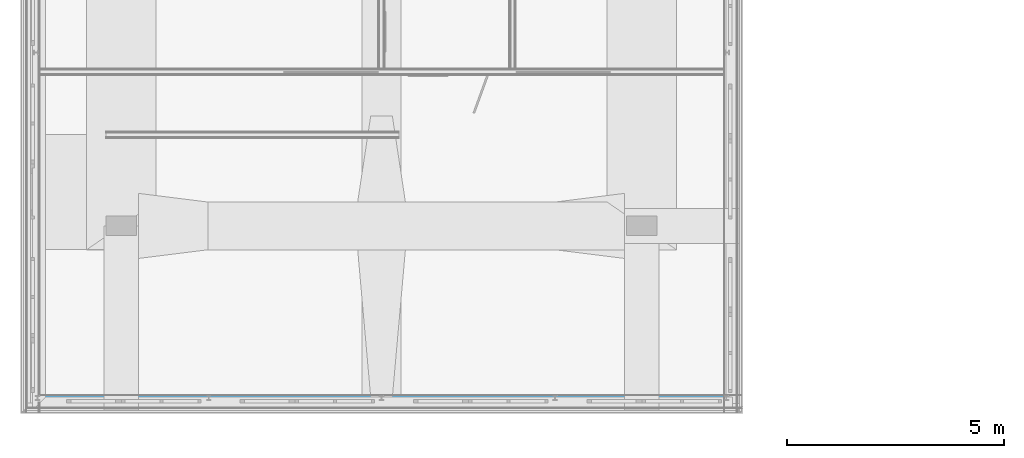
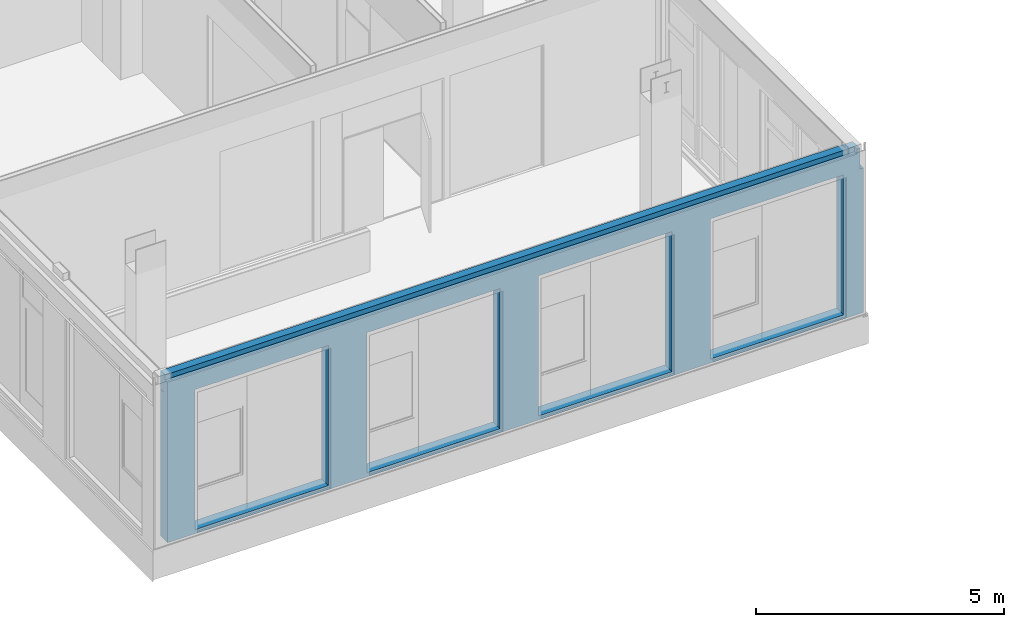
# One storey, part 66 of 94: 1 building element part, 8 openings, 1 element without a shape of its own.
"""IFC2X3 building model written with IfcOpenShell, lengths in millimetres."""

from ifc_helpers import new_model, entity, si_unit, converted_unit, derived_unit, money_unit, direction, frame, origin_with_axes, place, context, subcontext, project, spatial, faceted_brep, material, type_object, element, aggregate, save


model = new_model("IFC2X3")

# Units and contexts
model_context = context("Model", 3, precision=0.01, world=origin_with_axes(), true_north=direction((0.0, 1.0)))
body_context = subcontext(model_context, "Body", "Model", "MODEL_VIEW")
ifc_project = project(units=[si_unit("LENGTHUNIT", "METRE", prefix="MILLI"), si_unit("AREAUNIT", "SQUARE_METRE"), si_unit("VOLUMEUNIT", "CUBIC_METRE"), converted_unit("PLANEANGLEUNIT", "DEGREE", entity("IfcPlaneAngleMeasure", 0.0174532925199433), si_unit("PLANEANGLEUNIT", "RADIAN"), dimensions=[0, 0, 0, 0, 0, 0, 0]), money_unit("EUR"), converted_unit("TIMEUNIT", "Year", entity("IfcTimeMeasure", 31557600.0), si_unit("TIMEUNIT", "SECOND"), dimensions=[0, 0, 1, 0, 0, 0, 0]), si_unit("MASSUNIT", "GRAM", prefix="KILO"), si_unit("THERMODYNAMICTEMPERATUREUNIT", "DEGREE_CELSIUS"), si_unit("LUMINOUSINTENSITYUNIT", "LUMEN"), si_unit("ENERGYUNIT", "JOULE", prefix="MEGA"), derived_unit("THERMALCONDUCTANCEUNIT", [(si_unit("POWERUNIT", "WATT"), 1), (si_unit("LENGTHUNIT", "METRE"), -1), (si_unit("THERMODYNAMICTEMPERATUREUNIT", "KELVIN"), -1)]), derived_unit("SPECIFICHEATCAPACITYUNIT", [(si_unit("ENERGYUNIT", "JOULE"), 1), (si_unit("MASSUNIT", "GRAM", prefix="KILO"), -1), (si_unit("THERMODYNAMICTEMPERATUREUNIT", "KELVIN"), -1)]), derived_unit("MASSDENSITYUNIT", [(si_unit("MASSUNIT", "GRAM", prefix="KILO"), 1), (si_unit("VOLUMEUNIT", "CUBIC_METRE"), -1)])], contexts=[model_context])

# Site, building, storey
site_placement = place(None, origin_with_axes())
site = spatial("IfcSite", under=ifc_project, at=site_placement, Name="<site naam>", CompositionType="ELEMENT")
building_placement = place(site_placement, origin_with_axes())
building = spatial("IfcBuilding", under=site, at=building_placement, Name="<Naam gebouw>", CompositionType="ELEMENT")
storey_placement = place(building_placement, frame((0.0, 0.0, 4250.0), z_axis=(0.0, 0.0, 1.0), x_axis=(1.0, 0.0, 0.0)))
storey = spatial("IfcBuildingStorey", under=building, at=storey_placement, Name="01 1e verdieping", CompositionType="ELEMENT", Elevation=4250.0)

# Wall, openings, building element part
wall_type = type_object("IfcWallType", Name="HSB_285 gevelbeplating 420", PredefinedType="NOTDEFINED")
wall_placement = place(storey_placement, frame((-12297.99999999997, -12300.03170931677, 0.0), z_axis=(0.0, 0.0, 1.0), x_axis=(1.0, 0.0, 0.0)))
wall = element("IfcWall", 1, at=wall_placement, inside=storey, type_object=wall_type, Name="21_Binnenwand_HSB_285")
opening_1_placement = place(wall_placement, frame((11216.5, 0.0, 99.99999999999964), z_axis=(0.0, 0.0, 1.0), x_axis=(1.0, 0.0, 0.0)))
element("IfcOpeningElement", 2, at=opening_1_placement, cuts=wall, Name="21_BU-A-12a sp_305", context=body_context, shape_type="Brep", body=[
    faceted_brep([(918.5, 212.9999999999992, 0.0), (918.5, 213.000000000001, 3450.0), (918.5, -1.000000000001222, 3450.0), (918.5, -1.000000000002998, 0.0), (918.5, 420.9999999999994, 0.0), (918.5, 421.0000000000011, 3450.0), (-918.4999999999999, 213.000000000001, 3450.0), (-918.4999999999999, -1.000000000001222, 3450.0), (-918.4999999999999, -1.000000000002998, 0.0), (-918.4999999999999, 212.9999999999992, 0.0), (-918.4999999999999, 420.9999999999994, 0.0), (-918.4999999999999, 421.0000000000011, 3450.0)], [[[0, 1, 2, 3]], [[1, 0, 4, 5]], [[1, 6, 7, 2]], [[7, 8, 3, 2]], [[9, 0, 3, 8]], [[0, 9, 10, 4]], [[5, 4, 10, 11]], [[6, 1, 5, 11]], [[6, 9, 8, 7]], [[9, 6, 11, 10]]]),
])
opening_2_placement = place(wall_placement, frame((13664.50000000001, 0.0, 99.99999999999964), z_axis=(0.0, 0.0, 1.0), x_axis=(1.0, 0.0, 0.0)))
element("IfcOpeningElement", 3, at=opening_2_placement, cuts=wall, Name="21_BU-A-12b sp_305", context=body_context, shape_type="Brep", body=[
    faceted_brep([(633.4999999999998, 212.9999999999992, 0.0), (633.4999999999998, 213.000000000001, 3450.0), (633.4999999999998, -1.000000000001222, 3450.0), (633.4999999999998, -1.000000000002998, 0.0), (633.4999999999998, 420.9999999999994, 0.0), (633.4999999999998, 421.0000000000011, 3450.0), (-633.5, 213.000000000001, 3450.0), (-633.5, -1.000000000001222, 3450.0), (-633.5, -1.000000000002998, 0.0), (-633.5, 212.9999999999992, 0.0), (-633.5, 420.9999999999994, 0.0), (-633.5, 421.0000000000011, 3450.0)], [[[0, 1, 2, 3]], [[1, 0, 4, 5]], [[1, 6, 7, 2]], [[7, 8, 3, 2]], [[9, 0, 3, 8]], [[0, 9, 10, 4]], [[5, 4, 10, 11]], [[6, 1, 5, 11]], [[6, 9, 8, 7]], [[9, 6, 11, 10]]]),
])
opening_3_placement = place(wall_placement, frame((7216.500000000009, 0.0, 99.99999999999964), z_axis=(0.0, 0.0, 1.0), x_axis=(1.0, 0.0, 0.0)))
element("IfcOpeningElement", 4, at=opening_3_placement, cuts=wall, Name="21_BU-A-12a sp_305", context=body_context, shape_type="Brep", body=[
    faceted_brep([(918.4999999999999, 212.9999999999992, 0.0), (918.4999999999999, 213.000000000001, 3450.0), (918.4999999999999, -1.000000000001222, 3450.0), (918.4999999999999, -1.000000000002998, 0.0), (918.4999999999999, 420.9999999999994, 0.0), (918.4999999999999, 421.0000000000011, 3450.0), (-918.4999999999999, 213.000000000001, 3450.0), (-918.4999999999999, -1.000000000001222, 3450.0), (-918.4999999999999, -1.000000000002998, 0.0), (-918.4999999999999, 212.9999999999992, 0.0), (-918.4999999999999, 420.9999999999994, 0.0), (-918.4999999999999, 421.0000000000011, 3450.0)], [[[0, 1, 2, 3]], [[1, 0, 4, 5]], [[1, 6, 7, 2]], [[7, 8, 3, 2]], [[9, 0, 3, 8]], [[0, 9, 10, 4]], [[5, 4, 10, 11]], [[6, 1, 5, 11]], [[6, 9, 8, 7]], [[9, 6, 11, 10]]]),
])
opening_4_placement = place(wall_placement, frame((9664.5, 0.0, 99.99999999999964), z_axis=(0.0, 0.0, 1.0), x_axis=(1.0, 0.0, 0.0)))
element("IfcOpeningElement", 5, at=opening_4_placement, cuts=wall, Name="21_BU-A-12b sp_305", context=body_context, shape_type="Brep", body=[
    faceted_brep([(633.5, 212.9999999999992, 0.0), (633.5, 213.000000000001, 3450.0), (633.5, -1.000000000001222, 3450.0), (633.5, -1.000000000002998, 0.0), (633.5, 420.9999999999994, 0.0), (633.5, 421.0000000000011, 3450.0), (-633.4999999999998, 213.000000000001, 3450.0), (-633.4999999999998, -1.000000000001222, 3450.0), (-633.4999999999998, -1.000000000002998, 0.0), (-633.4999999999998, 212.9999999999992, 0.0), (-633.4999999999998, 420.9999999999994, 0.0), (-633.4999999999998, 421.0000000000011, 3450.0)], [[[0, 1, 2, 3]], [[1, 0, 4, 5]], [[1, 6, 7, 2]], [[7, 8, 3, 2]], [[9, 0, 3, 8]], [[0, 9, 10, 4]], [[5, 4, 10, 11]], [[6, 1, 5, 11]], [[6, 9, 8, 7]], [[9, 6, 11, 10]]]),
])
opening_5_placement = place(wall_placement, frame((5664.500000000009, 0.0, 99.99999999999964), z_axis=(0.0, 0.0, 1.0), x_axis=(1.0, 0.0, 0.0)))
element("IfcOpeningElement", 6, at=opening_5_placement, cuts=wall, Name="21_BU-A-12b sp_305", context=body_context, shape_type="Brep", body=[
    faceted_brep([(633.4999999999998, 212.9999999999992, 0.0), (633.4999999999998, 213.000000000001, 3450.0), (633.4999999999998, -0.9999999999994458, 3450.0), (633.4999999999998, -1.000000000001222, 0.0), (633.4999999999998, 420.9999999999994, 0.0), (633.4999999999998, 421.0000000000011, 3450.0), (-633.4999999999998, 213.000000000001, 3450.0), (-633.4999999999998, -0.9999999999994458, 3450.0), (-633.4999999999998, -1.000000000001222, 0.0), (-633.4999999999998, 212.9999999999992, 0.0), (-633.4999999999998, 420.9999999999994, 0.0), (-633.4999999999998, 421.0000000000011, 3450.0)], [[[0, 1, 2, 3]], [[1, 0, 4, 5]], [[1, 6, 7, 2]], [[7, 8, 3, 2]], [[9, 0, 3, 8]], [[0, 9, 10, 4]], [[5, 4, 10, 11]], [[6, 1, 5, 11]], [[6, 9, 8, 7]], [[9, 6, 11, 10]]]),
])
opening_6_placement = place(wall_placement, frame((1664.500000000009, 0.0, 99.99999999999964), z_axis=(0.0, 0.0, 1.0), x_axis=(1.0, 0.0, 0.0)))
element("IfcOpeningElement", 7, at=opening_6_placement, cuts=wall, Name="21_BU-A-12b sp_305", context=body_context, shape_type="Brep", body=[
    faceted_brep([(633.4999999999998, 212.9999999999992, 0.0), (633.4999999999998, 213.000000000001, 3450.0), (633.4999999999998, -0.9999999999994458, 3450.0), (633.4999999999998, -1.000000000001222, 0.0), (633.4999999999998, 420.9999999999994, 0.0), (633.4999999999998, 421.0000000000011, 3450.0), (-633.4999999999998, 213.000000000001, 3450.0), (-633.4999999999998, -0.9999999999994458, 3450.0), (-633.4999999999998, -1.000000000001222, 0.0), (-633.4999999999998, 212.9999999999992, 0.0), (-633.4999999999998, 420.9999999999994, 0.0), (-633.4999999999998, 421.0000000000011, 3450.0)], [[[0, 1, 2, 3]], [[1, 0, 4, 5]], [[1, 6, 7, 2]], [[7, 8, 3, 2]], [[9, 0, 3, 8]], [[0, 9, 10, 4]], [[5, 4, 10, 11]], [[6, 1, 5, 11]], [[6, 9, 8, 7]], [[9, 6, 11, 10]]]),
])
opening_7_placement = place(wall_placement, frame((3216.50000000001, 0.0, 99.99999999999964), z_axis=(0.0, 0.0, 1.0), x_axis=(1.0, 0.0, 0.0)))
element("IfcOpeningElement", 8, at=opening_7_placement, cuts=wall, Name="21_BU-A-12a sp_305", context=body_context, shape_type="Brep", body=[
    faceted_brep([(918.4999999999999, 212.9999999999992, 0.0), (918.4999999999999, 213.000000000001, 3450.0), (918.4999999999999, -1.000000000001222, 3450.0), (918.4999999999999, -1.000000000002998, 0.0), (918.4999999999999, 420.9999999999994, 0.0), (918.4999999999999, 421.0000000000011, 3450.0), (-918.4999999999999, 213.000000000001, 3450.0), (-918.4999999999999, -1.000000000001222, 3450.0), (-918.4999999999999, -1.000000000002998, 0.0), (-918.4999999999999, 212.9999999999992, 0.0), (-918.4999999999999, 420.9999999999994, 0.0), (-918.4999999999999, 421.0000000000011, 3450.0)], [[[0, 1, 2, 3]], [[1, 0, 4, 5]], [[1, 6, 7, 2]], [[7, 8, 3, 2]], [[9, 0, 3, 8]], [[0, 9, 10, 4]], [[5, 4, 10, 11]], [[6, 1, 5, 11]], [[6, 9, 8, 7]], [[9, 6, 11, 10]]]),
])
opening_8_placement = place(wall_placement, frame((15216.50000000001, 0.0, 99.99999999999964), z_axis=(0.0, 0.0, 1.0), x_axis=(1.0, 0.0, 0.0)))
element("IfcOpeningElement", 9, at=opening_8_placement, cuts=wall, Name="21_BU-A-12a sp_305", context=body_context, shape_type="Brep", body=[
    faceted_brep([(918.4999999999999, 212.9999999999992, 0.0), (918.4999999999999, 213.000000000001, 3450.0), (918.4999999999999, -1.000000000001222, 3450.0), (918.4999999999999, -1.000000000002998, 0.0), (918.4999999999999, 420.9999999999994, 0.0), (918.4999999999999, 421.0000000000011, 3450.0), (-918.4999999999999, 213.000000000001, 3450.0), (-918.4999999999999, -1.000000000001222, 3450.0), (-918.4999999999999, -1.000000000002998, 0.0), (-918.4999999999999, 212.9999999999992, 0.0), (-918.4999999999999, 420.9999999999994, 0.0), (-918.4999999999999, 421.0000000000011, 3450.0)], [[[0, 1, 2, 3]], [[1, 0, 4, 5]], [[1, 6, 7, 2]], [[7, 8, 3, 2]], [[9, 0, 3, 8]], [[0, 9, 10, 4]], [[5, 4, 10, 11]], [[6, 1, 5, 11]], [[6, 9, 8, 7]], [[9, 6, 11, 10]]]),
])
ifc_material = material(Name="isolatie_houtvezel")
building_element_part_placement = place(wall_placement, origin_with_axes())
building_element_part = element("IfcBuildingElementPart", 10, at=building_element_part_placement, material=ifc_material, Name="isolatie_houtvezel", context=body_context, shape_type="Brep", body=[
    faceted_brep([(16443.00008423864, 209.4992195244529, 4070.000000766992), (16443.00008423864, 107.0000000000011, 4070.000000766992), (16513.04446784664, 107.0000000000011, 4070.000000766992), (16513.04446784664, 392.0000000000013, 4070.000000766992), (391.9999999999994, 391.9999999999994, 4070.000000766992), (391.9999999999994, 209.4992585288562, 4070.000000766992), (16443.00008423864, 209.4992195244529, 3949.999659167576), (16443.00008423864, 107.0000000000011, 3949.999659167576), (391.9999999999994, 107.0000000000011, 3949.999659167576), (391.9999999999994, 106.9999999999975, 0.0), (16596.04443933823, 107.0000000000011, 0.0), (16596.04443933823, 107.0000000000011, 3560.000103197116), (16513.04446784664, 107.0000000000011, 3560.000103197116), (16513.04446784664, 391.9999999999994, 3560.000103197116), (391.9999999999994, 391.9999999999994, 0.0), (16596.04443933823, 392.0000000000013, 3560.000103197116), (16596.04443933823, 392.0000000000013, 0.0), (392.0000000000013, 209.4992585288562, 3949.999659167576), (391.9999999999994, 380.5317102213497, 0.0), (392.0000000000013, 380.5317102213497, 3609.99927844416), (392.0000000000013, 382.5022831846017, 3609.99927844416), (392.0000000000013, 382.5021160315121, 3618.499636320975), (392.0000000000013, 380.5317102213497, 3618.499636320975), (391.9999999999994, 380.5317102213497, 3789.999753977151), (391.9999999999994, 372.5317077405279, 3789.999753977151), (392.0000000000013, 372.5317077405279, 3618.499636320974), (392.0000000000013, 335.301876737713, 3618.499636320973), (391.9999999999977, 335.3018767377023, 3801.499799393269), (392.0000000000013, 382.5021160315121, 3801.499799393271), (392.0000000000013, 382.5022831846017, 3809.999956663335), (391.9999999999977, 282.5014011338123, 3809.999956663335), (392.0000000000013, 282.5015682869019, 3801.499799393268), (391.9999999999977, 329.7018075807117, 3801.499799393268), (392.0000000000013, 329.7018075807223, 3618.49963632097), (392.0000000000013, 292.5317117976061, 3618.499636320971), (391.9999999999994, 292.5317117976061, 3789.999753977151), (391.9999999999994, 284.5317093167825, 3789.999753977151), (392.0000000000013, 284.5317093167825, 3618.499636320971), (392.0000000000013, 282.5015682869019, 3618.499636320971), (391.9999999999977, 282.5014011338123, 3609.99927844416), (391.9999999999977, 284.5317093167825, 3609.99927844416), (391.9999999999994, 284.5317093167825, 0.0), (391.9999999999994, 292.5317117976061, 0.0), (391.9999999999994, 372.5317077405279, 0.0), (414.0748707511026, 372.5317077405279, 0.0), (414.0748706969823, 380.5317102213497, 0.0), (414.0748706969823, 284.5317093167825, 0.0), (414.0748707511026, 292.5317117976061, 0.0), (16298.04446808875, 283.5317117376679, 0.0), (16298.04446814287, 291.5317142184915, 0.0), (16250.54446799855, 291.5317142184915, 0.0), (16250.54446799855, 371.5317101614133, 0.0), (16298.04446814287, 371.5317101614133, 0.0), (16298.04446808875, 379.531712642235, 0.0), (16198.04446790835, 379.531712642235, 0.0), (16198.04446785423, 371.5317101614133, 0.0), (16245.54446799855, 371.5317101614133, 0.0), (16245.54446799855, 291.5317142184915, 0.0), (16198.04446785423, 291.5317142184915, 0.0), (16198.04446790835, 283.5317117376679, 0.0), (12348.00000007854, 283.5317117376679, 0.0), (12348.00000013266, 291.5317142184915, 0.0), (12300.49999998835, 291.5317142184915, 0.0), (12300.49999998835, 371.5317101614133, 0.0), (12348.00000013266, 371.5317101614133, 0.0), (12348.00000007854, 379.531712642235, 0.0), (12247.99999989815, 379.531712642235, 0.0), (12247.99999984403, 371.5317101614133, 0.0), (12295.49999998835, 371.5317101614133, 0.0), (12295.49999998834, 291.5317142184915, 0.0), (12247.99999984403, 291.5317142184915, 0.0), (12247.99999989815, 283.5317117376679, 0.0), (8348.000000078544, 283.5317117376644, 0.0), (8348.000000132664, 291.5317142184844, 0.0), (8300.499999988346, 291.5317142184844, 0.0), (8300.499999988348, 371.5317101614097, 0.0), (8348.000000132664, 371.5317101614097, 0.0), (8348.000000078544, 379.5317126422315, 0.0), (8247.999999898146, 379.5317126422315, 0.0), (8247.999999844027, 371.5317101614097, 0.0), (8295.499999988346, 371.5317101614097, 0.0), (8295.499999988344, 291.5317142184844, 0.0), (8247.999999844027, 291.5317142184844, 0.0), (8247.999999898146, 283.5317117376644, 0.0), (4364.024074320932, 283.5263641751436, 0.0), (4364.024074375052, 291.5263666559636, 0.0), (4316.524074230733, 291.5263666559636, 0.0), (4316.524074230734, 371.5263625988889, 0.0), (4364.024074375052, 371.5263625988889, 0.0), (4364.024074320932, 379.5263650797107, 0.0), (4264.024074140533, 379.5263650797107, 0.0), (4264.024074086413, 371.5263625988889, 0.0), (4311.524074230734, 371.5263625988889, 0.0), (4311.524074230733, 291.5263666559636, 0.0), (4264.024074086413, 291.5263666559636, 0.0), (4264.024074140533, 283.5263641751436, 0.0), (414.0748706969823, 380.5317102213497, 3609.99927844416), (414.0748707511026, 372.5317077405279, 3609.99927844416), (392.0000000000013, 372.5317077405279, 3609.99927844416), (391.9999999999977, 292.5317117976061, 3609.99927844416), (414.0748707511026, 292.5317117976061, 3609.99927844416), (414.0748706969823, 284.5317093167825, 3609.99927844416), (16443.00008423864, 282.5014011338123, 3609.99927844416), (16443.00008423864, 382.5022831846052, 3609.99927844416), (16198.04446785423, 291.5317142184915, 3609.99927844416), (16245.54446799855, 291.5317142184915, 3609.99927844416), (16245.54446799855, 371.5317101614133, 3609.99927844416), (16198.04446785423, 371.5317101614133, 3609.99927844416), (16198.04446790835, 379.531712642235, 3609.99927844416), (16298.04446808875, 379.531712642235, 3609.99927844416), (16298.04446814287, 371.5317101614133, 3609.99927844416), (16250.54446799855, 371.5317101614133, 3609.99927844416), (16250.54446799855, 291.5317142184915, 3609.99927844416), (16298.04446814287, 291.5317142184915, 3609.99927844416), (16298.04446808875, 283.5317117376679, 3609.99927844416), (16198.04446790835, 283.5317117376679, 3609.99927844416), (12247.99999984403, 291.5317142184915, 3609.99927844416), (12295.49999998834, 291.5317142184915, 3609.99927844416), (12295.49999998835, 371.5317101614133, 3609.99927844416), (12247.99999984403, 371.5317101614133, 3609.99927844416), (12247.99999989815, 379.531712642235, 3609.99927844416), (12348.00000007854, 379.531712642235, 3609.99927844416), (12348.00000013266, 371.5317101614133, 3609.99927844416), (12300.49999998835, 371.5317101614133, 3609.99927844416), (12300.49999998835, 291.5317142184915, 3609.99927844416), (12348.00000013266, 291.5317142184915, 3609.99927844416), (12348.00000007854, 283.5317117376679, 3609.99927844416), (12247.99999989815, 283.5317117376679, 3609.99927844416), (8247.999999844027, 291.5317142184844, 3609.99927844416), (8295.499999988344, 291.5317142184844, 3609.99927844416), (8295.499999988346, 371.5317101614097, 3609.99927844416), (8247.999999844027, 371.5317101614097, 3609.99927844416), (8247.999999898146, 379.5317126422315, 3609.99927844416), (8348.000000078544, 379.5317126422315, 3609.99927844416), (8348.000000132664, 371.5317101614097, 3609.99927844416), (8300.499999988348, 371.5317101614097, 3609.99927844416), (8300.499999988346, 291.5317142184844, 3609.99927844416), (8348.000000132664, 291.5317142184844, 3609.99927844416), (8348.000000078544, 283.5317117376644, 3609.99927844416), (8247.999999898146, 283.5317117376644, 3609.99927844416), (4264.024074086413, 291.5263666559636, 3609.99927844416), (4311.524074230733, 291.5263666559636, 3609.99927844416), (4311.524074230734, 371.5263625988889, 3609.99927844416), (4264.024074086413, 371.5263625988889, 3609.99927844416), (4264.024074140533, 379.5263650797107, 3609.99927844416), (4364.024074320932, 379.5263650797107, 3609.99927844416), (4364.024074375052, 371.5263625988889, 3609.99927844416), (4316.524074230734, 371.5263625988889, 3609.99927844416), (4316.524074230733, 291.5263666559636, 3609.99927844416), (4364.024074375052, 291.5263666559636, 3609.99927844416), (4364.024074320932, 283.5263641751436, 3609.99927844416), (4264.024074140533, 283.5263641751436, 3609.99927844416), (16443.00008423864, 382.5021160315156, 3618.499636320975), (4311.524074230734, 371.5263625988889, 3618.499636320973), (4311.524073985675, 335.301876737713, 3618.499636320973), (414.0748707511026, 372.5317077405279, 3618.499636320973), (414.0748706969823, 380.5317102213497, 3618.499636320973), (16443.00008423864, 335.3018767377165, 3618.499636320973), (16250.54446829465, 335.3018767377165, 3618.499636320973), (16250.54446799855, 371.5317101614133, 3618.499636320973), (16298.04446814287, 371.5317101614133, 3618.499636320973), (16298.04446808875, 379.531712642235, 3618.499636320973), (16198.04446790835, 379.531712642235, 3618.499636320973), (16198.04446785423, 371.5317101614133, 3618.499636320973), (16245.54446799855, 371.5317101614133, 3618.499636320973), (16245.54446775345, 335.3018767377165, 3618.499636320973), (12300.50000028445, 335.3018767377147, 3618.499636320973), (12300.49999998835, 371.5317101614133, 3618.499636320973), (12348.00000013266, 371.5317101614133, 3618.499636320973), (12348.00000007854, 379.531712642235, 3618.499636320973), (12247.99999989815, 379.531712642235, 3618.499636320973), (12247.99999984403, 371.5317101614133, 3618.499636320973), (12295.49999998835, 371.5317101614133, 3618.499636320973), (12295.49999974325, 335.3018767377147, 3618.499636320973), (8300.50000028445, 335.3018767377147, 3618.499636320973), (8300.499999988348, 371.5317101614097, 3618.499636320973), (8348.000000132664, 371.5317101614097, 3618.499636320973), (8348.000000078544, 379.5317126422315, 3618.499636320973), (8247.999999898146, 379.5317126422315, 3618.499636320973), (8247.999999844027, 371.5317101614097, 3618.499636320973), (8295.499999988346, 371.5317101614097, 3618.499636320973), (8295.499999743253, 335.3018767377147, 3618.499636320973), (4316.524074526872, 335.301876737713, 3618.499636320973), (4316.524074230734, 371.5263625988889, 3618.499636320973), (4364.024074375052, 371.5263625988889, 3618.499636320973), (4364.024074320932, 379.5263650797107, 3618.499636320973), (4264.024074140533, 379.5263650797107, 3618.499636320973), (4264.024074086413, 371.5263625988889, 3618.499636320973), (414.0748706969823, 380.5317102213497, 3789.999753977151), (414.0748707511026, 372.5317077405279, 3789.999753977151), (4311.524074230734, 335.301876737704, 3789.999753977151), (4316.524074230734, 335.301876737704, 3789.999753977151), (8295.499999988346, 335.301876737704, 3789.999753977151), (8300.499999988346, 335.301876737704, 3789.999753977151), (12295.49999998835, 335.3018767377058, 3789.999753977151), (12300.49999998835, 335.3018767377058, 3789.999753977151), (16245.54446799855, 335.3018767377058, 3789.999753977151), (16250.54446799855, 335.3018767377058, 3789.999753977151), (16443.00008423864, 335.3018767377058, 3801.499799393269), (16443.00008423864, 382.5021160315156, 3801.499799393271), (16443.00008423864, 382.5022831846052, 3809.999956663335), (16443.00008423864, 282.5014011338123, 3809.999956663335), (16443.00008423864, 282.5015682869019, 3801.499799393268), (16443.00008423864, 329.7018075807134, 3801.499799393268), (8295.499999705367, 329.7018075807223, 3618.49963632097), (4316.524074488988, 329.7018075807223, 3618.49963632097), (4316.524074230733, 329.7018075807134, 3789.999753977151), (4311.524074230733, 329.7018075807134, 3789.999753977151), (4311.524073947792, 329.7018075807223, 3618.49963632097), (16443.00008423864, 329.7018075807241, 3618.49963632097), (16250.54446825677, 329.7018075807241, 3618.49963632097), (16250.54446799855, 329.7018075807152, 3789.999753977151), (16245.54446799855, 329.7018075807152, 3789.999753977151), (16245.54446771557, 329.7018075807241, 3618.49963632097), (12300.50000024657, 329.7018075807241, 3618.49963632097), (12300.49999998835, 329.7018075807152, 3789.999753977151), (12295.49999998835, 329.7018075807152, 3789.999753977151), (12295.49999970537, 329.7018075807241, 3618.49963632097), (8300.500000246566, 329.7018075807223, 3618.49963632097), (8300.499999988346, 329.7018075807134, 3789.999753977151), (8295.499999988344, 329.7018075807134, 3789.999753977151), (16443.00008423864, 282.5015682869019, 3618.499636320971), (414.0748706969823, 284.5317093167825, 3618.499636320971), (414.0748707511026, 292.5317117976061, 3618.499636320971), (4311.524074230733, 291.5263666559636, 3618.499636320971), (4264.024074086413, 291.5263666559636, 3618.499636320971), (4264.024074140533, 283.5263641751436, 3618.499636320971), (4364.024074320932, 283.5263641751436, 3618.499636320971), (4364.024074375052, 291.5263666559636, 3618.499636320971), (4316.524074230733, 291.5263666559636, 3618.499636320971), (8295.499999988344, 291.5317142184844, 3618.499636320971), (8247.999999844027, 291.5317142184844, 3618.499636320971), (8247.999999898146, 283.5317117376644, 3618.499636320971), (8348.000000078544, 283.5317117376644, 3618.499636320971), (8348.000000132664, 291.5317142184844, 3618.499636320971), (8300.499999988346, 291.5317142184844, 3618.499636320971), (12295.49999998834, 291.5317142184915, 3618.499636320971), (12247.99999984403, 291.5317142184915, 3618.499636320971), (12247.99999989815, 283.5317117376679, 3618.499636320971), (12348.00000007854, 283.5317117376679, 3618.499636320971), (12348.00000013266, 291.5317142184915, 3618.499636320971), (12300.49999998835, 291.5317142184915, 3618.499636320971), (16245.54446799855, 291.5317142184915, 3618.499636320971), (16198.04446785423, 291.5317142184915, 3618.499636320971), (16198.04446790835, 283.5317117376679, 3618.499636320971), (16298.04446808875, 283.5317117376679, 3618.499636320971), (16298.04446814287, 291.5317142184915, 3618.499636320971), (16250.54446799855, 291.5317142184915, 3618.499636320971), (414.0748707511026, 292.5317117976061, 3789.999753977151), (414.0748706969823, 284.5317093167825, 3789.999753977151), (4311.524074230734, 371.5263625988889, 3789.999753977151), (16250.54446799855, 371.5317101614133, 3789.999753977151), (16298.04446814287, 371.5317101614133, 3789.999753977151), (16298.04446808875, 379.531712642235, 3789.999753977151), (16198.04446790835, 379.531712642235, 3789.999753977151), (16198.04446785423, 371.5317101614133, 3789.999753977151), (16245.54446799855, 371.5317101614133, 3789.999753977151), (12300.49999998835, 371.5317101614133, 3789.999753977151), (12348.00000013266, 371.5317101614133, 3789.999753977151), (12348.00000007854, 379.531712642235, 3789.999753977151), (12247.99999989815, 379.531712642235, 3789.999753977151), (12247.99999984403, 371.5317101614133, 3789.999753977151), (12295.49999998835, 371.5317101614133, 3789.999753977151), (8300.499999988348, 371.5317101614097, 3789.999753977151), (8348.000000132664, 371.5317101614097, 3789.999753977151), (8348.000000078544, 379.5317126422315, 3789.999753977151), (8247.999999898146, 379.5317126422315, 3789.999753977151), (8247.999999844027, 371.5317101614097, 3789.999753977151), (8295.499999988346, 371.5317101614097, 3789.999753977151), (4316.524074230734, 371.5263625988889, 3789.999753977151), (4364.024074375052, 371.5263625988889, 3789.999753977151), (4364.024074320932, 379.5263650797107, 3789.999753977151), (4264.024074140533, 379.5263650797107, 3789.999753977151), (4264.024074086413, 371.5263625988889, 3789.999753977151), (4316.524074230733, 291.5263666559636, 3789.999753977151), (4264.024074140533, 283.5263641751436, 3789.999753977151), (4264.024074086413, 291.5263666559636, 3789.999753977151), (4311.524074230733, 291.5263666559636, 3789.999753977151), (4364.024074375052, 291.5263666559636, 3789.999753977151), (4364.024074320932, 283.5263641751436, 3789.999753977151), (16250.54446799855, 291.5317142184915, 3789.999753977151), (16198.04446790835, 283.5317117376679, 3789.999753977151), (16198.04446785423, 291.5317142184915, 3789.999753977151), (16245.54446799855, 291.5317142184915, 3789.999753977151), (16298.04446814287, 291.5317142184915, 3789.999753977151), (16298.04446808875, 283.5317117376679, 3789.999753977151), (12300.49999998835, 291.5317142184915, 3789.999753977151), (12247.99999989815, 283.5317117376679, 3789.999753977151), (12247.99999984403, 291.5317142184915, 3789.999753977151), (12295.49999998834, 291.5317142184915, 3789.999753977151), (12348.00000013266, 291.5317142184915, 3789.999753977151), (12348.00000007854, 283.5317117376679, 3789.999753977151), (8300.499999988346, 291.5317142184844, 3789.999753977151), (8247.999999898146, 283.5317117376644, 3789.999753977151), (8247.999999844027, 291.5317142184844, 3789.999753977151), (8295.499999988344, 291.5317142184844, 3789.999753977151), (8348.000000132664, 291.5317142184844, 3789.999753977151), (8348.000000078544, 283.5317117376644, 3789.999753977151)], [[[0, 1, 2, 3, 4, 5]], [[1, 0, 6, 7]], [[7, 8, 9, 10, 11, 12, 2, 1]], [[2, 12, 13, 3]], [[14, 4, 3, 13, 15, 16]], [[17, 5, 4, 14, 18, 19, 20, 21, 22, 23, 24, 25, 26, 27, 28, 29, 30, 31, 32, 33, 34, 35, 36, 37, 38, 39, 40, 41, 9, 8]], [[0, 5, 17, 6]], [[8, 7, 6, 17]], [[42, 43, 44, 45, 18, 14, 16, 10, 9, 41, 46, 47], [48, 49, 50, 51, 52, 53, 54, 55, 56, 57, 58, 59], [60, 61, 62, 63, 64, 65, 66, 67, 68, 69, 70, 71], [72, 73, 74, 75, 76, 77, 78, 79, 80, 81, 82, 83], [84, 85, 86, 87, 88, 89, 90, 91, 92, 93, 94, 95]], [[10, 16, 15, 11]], [[12, 11, 15, 13]], [[19, 18, 45, 96]], [[20, 19, 96, 97, 98, 99, 100, 101, 40, 39, 102, 103], [104, 105, 106, 107, 108, 109, 110, 111, 112, 113, 114, 115], [116, 117, 118, 119, 120, 121, 122, 123, 124, 125, 126, 127], [128, 129, 130, 131, 132, 133, 134, 135, 136, 137, 138, 139], [140, 141, 142, 143, 144, 145, 146, 147, 148, 149, 150, 151]], [[21, 20, 103, 152]], [[153, 154, 26, 25, 155, 156, 22, 21, 152, 157, 158, 159, 160, 161, 162, 163, 164, 165, 166, 167, 168, 169, 170, 171, 172, 173, 174, 175, 176, 177, 178, 179, 180, 181, 182, 183, 184, 185, 186, 187]], [[156, 188, 23, 22]], [[23, 188, 189, 24]], [[25, 24, 189, 155]], [[26, 154, 190, 191, 182, 181, 192, 193, 174, 173, 194, 195, 166, 165, 196, 197, 158, 157, 198, 27]], [[28, 27, 198, 199]], [[29, 28, 199, 200]], [[30, 29, 200, 201]], [[31, 30, 201, 202]], [[32, 31, 202, 203]], [[204, 205, 206, 207, 208, 33, 32, 203, 209, 210, 211, 212, 213, 214, 215, 216, 217, 218, 219, 220]], [[209, 221, 38, 37, 222, 223, 34, 33, 208, 224, 225, 226, 227, 228, 229, 205, 204, 230, 231, 232, 233, 234, 235, 218, 217, 236, 237, 238, 239, 240, 241, 214, 213, 242, 243, 244, 245, 246, 247, 210]], [[223, 248, 35, 34]], [[35, 248, 249, 36]], [[37, 36, 249, 222]], [[39, 38, 221, 102]], [[101, 46, 41, 40]], [[43, 42, 99, 98]], [[97, 44, 43, 98]], [[96, 45, 44, 97]], [[100, 47, 46, 101]], [[99, 42, 47, 100]], [[113, 49, 48, 114]], [[112, 50, 49, 113]], [[111, 51, 50, 112]], [[110, 52, 51, 111]], [[109, 53, 52, 110]], [[108, 54, 53, 109]], [[107, 55, 54, 108]], [[106, 56, 55, 107]], [[105, 57, 56, 106]], [[104, 58, 57, 105]], [[115, 59, 58, 104]], [[114, 48, 59, 115]], [[125, 61, 60, 126]], [[124, 62, 61, 125]], [[123, 63, 62, 124]], [[122, 64, 63, 123]], [[121, 65, 64, 122]], [[120, 66, 65, 121]], [[119, 67, 66, 120]], [[118, 68, 67, 119]], [[117, 69, 68, 118]], [[116, 70, 69, 117]], [[127, 71, 70, 116]], [[126, 60, 71, 127]], [[137, 73, 72, 138]], [[136, 74, 73, 137]], [[135, 75, 74, 136]], [[134, 76, 75, 135]], [[133, 77, 76, 134]], [[132, 78, 77, 133]], [[131, 79, 78, 132]], [[130, 80, 79, 131]], [[129, 81, 80, 130]], [[128, 82, 81, 129]], [[139, 83, 82, 128]], [[138, 72, 83, 139]], [[149, 85, 84, 150]], [[148, 86, 85, 149]], [[147, 87, 86, 148]], [[146, 88, 87, 147]], [[145, 89, 88, 146]], [[144, 90, 89, 145]], [[143, 91, 90, 144]], [[142, 92, 91, 143]], [[141, 93, 92, 142]], [[140, 94, 93, 141]], [[151, 95, 94, 140]], [[150, 84, 95, 151]], [[209, 203, 202, 201, 200, 199, 198, 157, 152, 103, 102, 221]], [[153, 250, 190, 154]], [[155, 189, 188, 156]], [[158, 197, 251, 159]], [[159, 251, 252, 160]], [[160, 252, 253, 161]], [[161, 253, 254, 162]], [[162, 254, 255, 163]], [[163, 255, 256, 164]], [[164, 256, 196, 165]], [[166, 195, 257, 167]], [[167, 257, 258, 168]], [[168, 258, 259, 169]], [[169, 259, 260, 170]], [[170, 260, 261, 171]], [[171, 261, 262, 172]], [[172, 262, 194, 173]], [[174, 193, 263, 175]], [[175, 263, 264, 176]], [[176, 264, 265, 177]], [[177, 265, 266, 178]], [[178, 266, 267, 179]], [[179, 267, 268, 180]], [[180, 268, 192, 181]], [[182, 191, 269, 183]], [[183, 269, 270, 184]], [[184, 270, 271, 185]], [[185, 271, 272, 186]], [[186, 272, 273, 187]], [[187, 273, 250, 153]], [[271, 270, 269, 191, 190, 250, 273, 272]], [[265, 264, 263, 193, 192, 268, 267, 266]], [[259, 258, 257, 195, 194, 262, 261, 260]], [[253, 252, 251, 197, 196, 256, 255, 254]], [[205, 229, 274, 206]], [[275, 276, 277, 207, 206, 274, 278, 279]], [[207, 277, 224, 208]], [[210, 247, 280, 211]], [[281, 282, 283, 212, 211, 280, 284, 285]], [[212, 283, 242, 213]], [[214, 241, 286, 215]], [[287, 288, 289, 216, 215, 286, 290, 291]], [[216, 289, 236, 217]], [[218, 235, 292, 219]], [[293, 294, 295, 220, 219, 292, 296, 297]], [[220, 295, 230, 204]], [[222, 249, 248, 223]], [[224, 277, 276, 225]], [[225, 276, 275, 226]], [[226, 275, 279, 227]], [[227, 279, 278, 228]], [[228, 278, 274, 229]], [[230, 295, 294, 231]], [[231, 294, 293, 232]], [[232, 293, 297, 233]], [[233, 297, 296, 234]], [[234, 296, 292, 235]], [[236, 289, 288, 237]], [[237, 288, 287, 238]], [[238, 287, 291, 239]], [[239, 291, 290, 240]], [[240, 290, 286, 241]], [[242, 283, 282, 243]], [[243, 282, 281, 244]], [[244, 281, 285, 245]], [[245, 285, 284, 246]], [[246, 284, 280, 247]]]),
])
aggregate(wall, [building_element_part])

save(model, "model.ifc")
